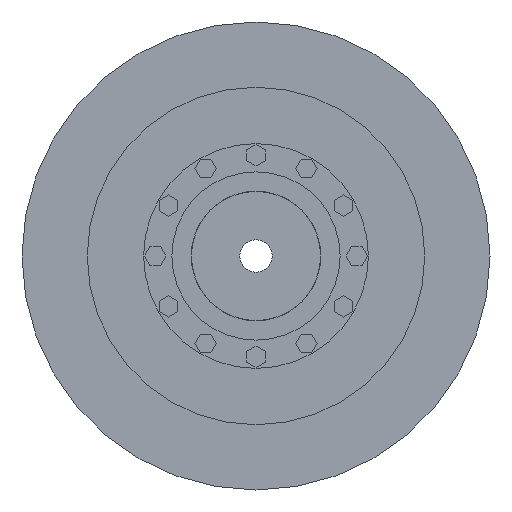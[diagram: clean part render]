
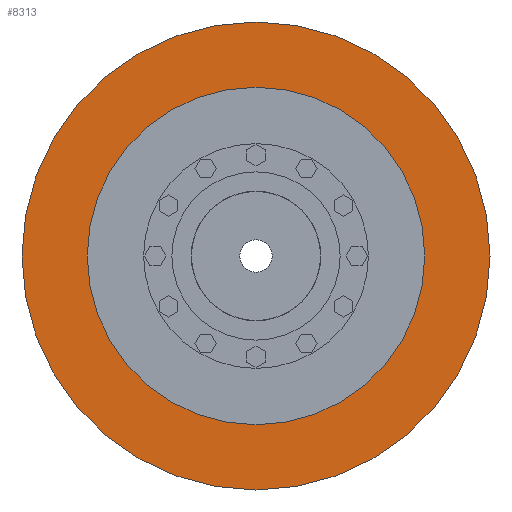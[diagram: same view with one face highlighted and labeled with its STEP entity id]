
A CAD part, left-side view. The second image highlights one B-rep face of the part: STEP entity #8313.
In plain terms, the highlighted planar face has unit normal (-1, 0, 0).
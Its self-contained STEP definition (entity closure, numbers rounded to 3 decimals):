
#8110=CARTESIAN_POINT('',(-47.5,0.,0.));
#8111=DIRECTION('',(-1.,0.,0.));
#8112=DIRECTION('',(0.,1.,0.));
#8113=AXIS2_PLACEMENT_3D('',#8110,#8111,#8112);
#8115=CARTESIAN_POINT('',(-47.5,0.,0.));
#8116=DIRECTION('',(1.,0.,0.));
#8117=DIRECTION('',(0.,1.,0.));
#8118=AXIS2_PLACEMENT_3D('',#8115,#8116,#8117);
#8120=CARTESIAN_POINT('',(-47.5,0.,0.));
#8121=DIRECTION('',(1.,0.,0.));
#8122=DIRECTION('',(0.,1.,0.));
#8123=AXIS2_PLACEMENT_3D('',#8120,#8121,#8122);
#8133=CARTESIAN_POINT('',(-47.5,0.,0.));
#8134=DIRECTION('',(-1.,0.,0.));
#8135=DIRECTION('',(0.,1.,0.));
#8136=AXIS2_PLACEMENT_3D('',#8133,#8134,#8135);
#8156=CARTESIAN_POINT('',(-47.5,146.4,0.));
#8158=VERTEX_POINT('',#8156);
#8168=CARTESIAN_POINT('',(-47.5,-146.4,0.));
#8170=VERTEX_POINT('',#8168);
#8173=CARTESIAN_POINT('',(-47.5,203.,0.));
#8175=VERTEX_POINT('',#8173);
#8177=CARTESIAN_POINT('',(-47.5,-203.,0.));
#8179=VERTEX_POINT('',#8177);
#8298=CARTESIAN_POINT('',(-47.5,0.,0.));
#8299=DIRECTION('',(1.,0.,0.));
#8300=DIRECTION('',(0.,-1.,0.));
#8301=AXIS2_PLACEMENT_3D('',#8298,#8299,#8300);
#8302=PLANE('',#8301);
#8303=ORIENTED_EDGE('',*,*,#8291,.F.);
#8304=ORIENTED_EDGE('',*,*,#8280,.T.);
#8305=EDGE_LOOP('',(#8303,#8304));
#8306=FACE_OUTER_BOUND('',#8305,.F.);
#8308=ORIENTED_EDGE('',*,*,#8307,.F.);
#8310=ORIENTED_EDGE('',*,*,#8309,.T.);
#8311=EDGE_LOOP('',(#8308,#8310));
#8312=FACE_BOUND('',#8311,.F.);
#8313=ADVANCED_FACE('',(#8306,#8312),#8302,.F.);
#8114=CIRCLE('',#8113,203.);
#8119=CIRCLE('',#8118,203.);
#8124=CIRCLE('',#8123,146.4);
#8137=CIRCLE('',#8136,146.4);
#8280=EDGE_CURVE('',#8175,#8179,#8119,.T.);
#8291=EDGE_CURVE('',#8175,#8179,#8114,.T.);
#8307=EDGE_CURVE('',#8158,#8170,#8124,.T.);
#8309=EDGE_CURVE('',#8158,#8170,#8137,.T.);
